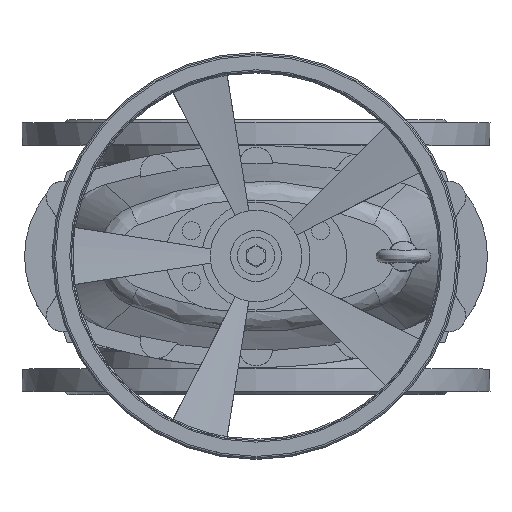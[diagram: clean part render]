
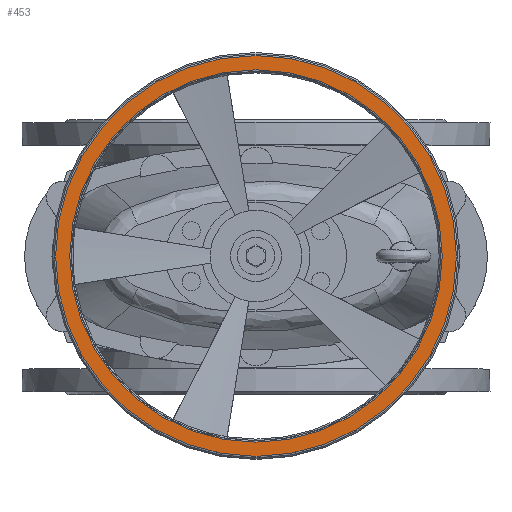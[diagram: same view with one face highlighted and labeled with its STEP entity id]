
A CAD part, top view. The second image highlights one B-rep face of the part: STEP entity #453.
In plain terms, the highlighted planar face has unit normal (0, 0, 1).
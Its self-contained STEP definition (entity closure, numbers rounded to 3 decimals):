
#453=ADVANCED_FACE('',(#3347,#3349),#3351,.T.);
#3347=FACE_BOUND('',#3348,.T.);
#3348=EDGE_LOOP('',(#21814));
#3349=FACE_BOUND('',#3350,.T.);
#3350=EDGE_LOOP('',(#21815));
#3351=PLANE('',#3352);
#3352=AXIS2_PLACEMENT_3D('',#3353,#3354,#3355);
#3353=CARTESIAN_POINT('',(0.,0.,675.));
#3354=DIRECTION('',(0.,0.,1.));
#3355=DIRECTION('',(1.,0.,0.));
#21814=ORIENTED_EDGE('',*,*,#23410,.T.);
#21815=ORIENTED_EDGE('',*,*,#23367,.F.);
#23367=EDGE_CURVE('',#24263,#24263,#24264,.T.);
#23410=EDGE_CURVE('',#24325,#24325,#24326,.T.);
#24263=VERTEX_POINT('',#26140);
#24264=CIRCLE('',#26141,183.);
#24325=VERTEX_POINT('',#26307);
#24326=CIRCLE('',#26308,197.);
#26140=CARTESIAN_POINT('',(183.,0.,675.));
#26141=AXIS2_PLACEMENT_3D('',#26142,#26143,#26144);
#26142=CARTESIAN_POINT('',(0.,0.,675.));
#26143=DIRECTION('',(0.,0.,1.));
#26144=DIRECTION('',(1.,0.,0.));
#26307=CARTESIAN_POINT('',(197.,0.,675.));
#26308=AXIS2_PLACEMENT_3D('',#26309,#26310,#26311);
#26309=CARTESIAN_POINT('',(0.,0.,675.));
#26310=DIRECTION('',(0.,0.,1.));
#26311=DIRECTION('',(1.,0.,0.));
